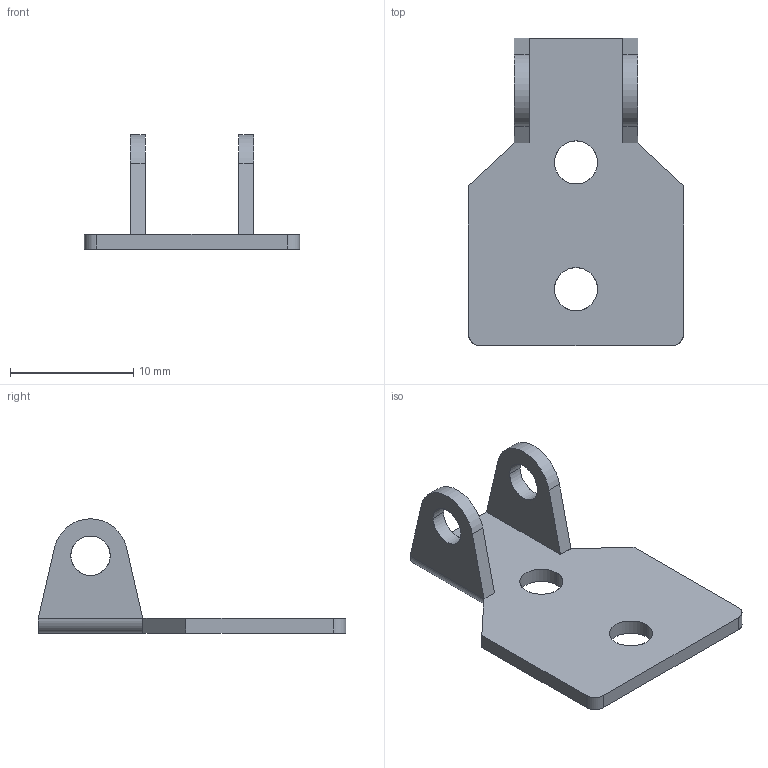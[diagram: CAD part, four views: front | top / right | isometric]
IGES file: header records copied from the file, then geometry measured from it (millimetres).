
Start section: SolidWorks IGES FILE using analytic representation for surfaces
Global section: file name: C:\WINNT\Profiles\cbrechard\Bureau\GE 574\533.020.00.IGS; native system: SolidWorks 2001Plus by SolidWorks Corporation; preprocessor: Version 5.3; author: CBRECHARD; date: 050125.145227; units: millimetre
Bounding box: 17.5 x 25 x 9.3 mm (x, y, z)
Surface area: 1025.4 mm2 (no closed solid volume)
Topology: 0 solids, 0 shells, 36 faces, 544 edges, 544 vertices
Faces by surface type: bspline 22, revolution 14
